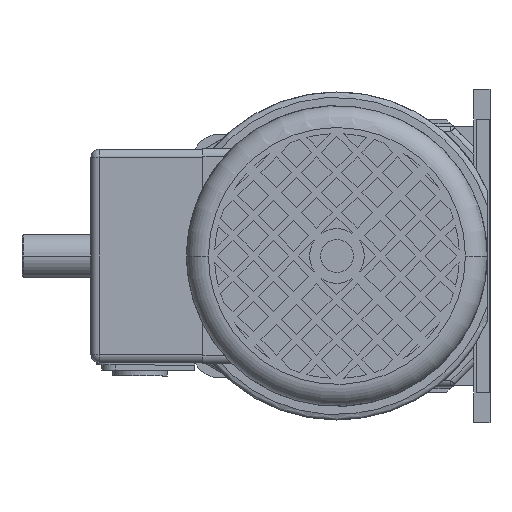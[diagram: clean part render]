
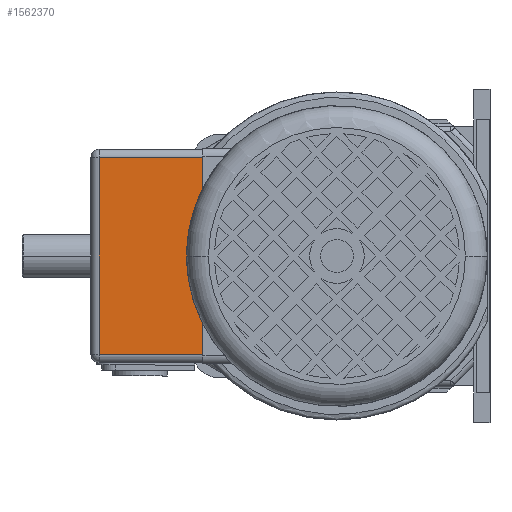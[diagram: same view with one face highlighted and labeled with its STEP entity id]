
A CAD part, left-side view. The second image highlights one B-rep face of the part: STEP entity #1562370.
In plain terms, the highlighted planar face has unit normal (-1, 0, 0) as drawn and (0, 0, -1) by its records, which use the part's own axes.
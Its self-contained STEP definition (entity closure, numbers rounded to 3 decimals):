
#1519470=CARTESIAN_POINT('',(87.,36.,-82.));
#1519480=VERTEX_POINT('',#1519470);
#1540420=CARTESIAN_POINT('',(49.,-36.,-82.));
#1540430=VERTEX_POINT('',#1540420);
#1540460=CARTESIAN_POINT('',(49.,0.,-82.));
#1540470=DIRECTION('',(0.,1.,0.));
#1540480=VECTOR('',#1540470,1.);
#1540490=LINE('',#1540460,#1540480);
#1540500=CARTESIAN_POINT('',(49.,36.,-82.));
#1540510=VERTEX_POINT('',#1540500);
#1540520=EDGE_CURVE('',#1540430,#1540510,#1540490,.T.);
#1562090=CARTESIAN_POINT('',(49.,0.,-82.));
#1562100=DIRECTION('',(0.,0.,-1.));
#1562110=DIRECTION('',(-1.,0.,0.));
#1562120=AXIS2_PLACEMENT_3D('',#1562090,#1562100,#1562110);
#1562130=PLANE('',#1562120);
#1562140=CARTESIAN_POINT('',(87.,0.,-82.));
#1562150=DIRECTION('',(0.,-1.,0.));
#1562160=VECTOR('',#1562150,1.);
#1562170=LINE('',#1562140,#1562160);
#1562180=CARTESIAN_POINT('',(87.,-36.,-82.));
#1562190=VERTEX_POINT('',#1562180);
#1562200=EDGE_CURVE('',#1519480,#1562190,#1562170,.T.);
#1562210=ORIENTED_EDGE('',*,*,#1562200,.T.);
#1562220=CARTESIAN_POINT('',(52.,36.,-82.));
#1562230=DIRECTION('',(1.,0.,0.));
#1562240=VECTOR('',#1562230,1.);
#1562250=LINE('',#1562220,#1562240);
#1562260=EDGE_CURVE('',#1540510,#1519480,#1562250,.T.);
#1562270=ORIENTED_EDGE('',*,*,#1562260,.T.);
#1562280=ORIENTED_EDGE('',*,*,#1540520,.T.);
#1562290=CARTESIAN_POINT('',(52.,-36.,-82.));
#1562300=DIRECTION('',(1.,0.,0.));
#1562310=VECTOR('',#1562300,1.);
#1562320=LINE('',#1562290,#1562310);
#1562330=EDGE_CURVE('',#1540430,#1562190,#1562320,.T.);
#1562340=ORIENTED_EDGE('',*,*,#1562330,.F.);
#1562350=EDGE_LOOP('',(#1562340,#1562280,#1562270,#1562210));
#1562360=FACE_OUTER_BOUND('',#1562350,.T.);
#1562370=ADVANCED_FACE('',(#1562360),#1562130,.T.);
